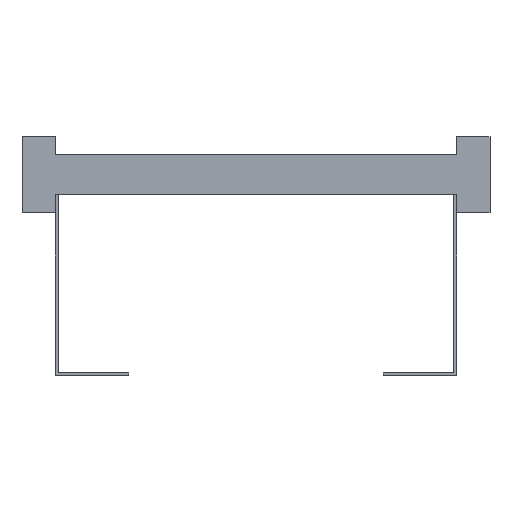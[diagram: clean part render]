
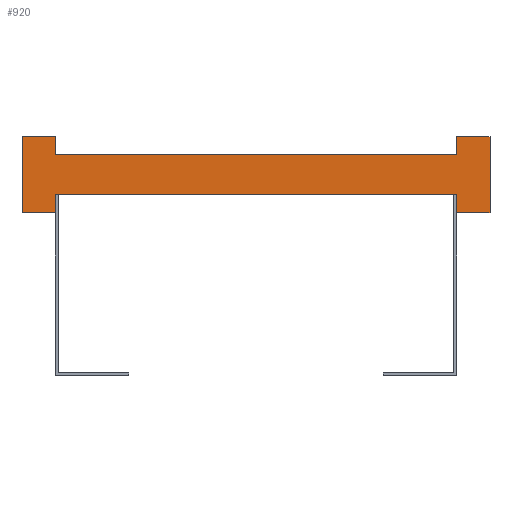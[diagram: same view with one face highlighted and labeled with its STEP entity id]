
A CAD part, front view. The second image highlights one B-rep face of the part: STEP entity #920.
In plain terms, the highlighted planar face has unit normal (0, -1, 0).
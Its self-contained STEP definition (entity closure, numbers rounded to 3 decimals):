
#1=DIRECTION('',(0.,0.,1.));
#2=VECTOR('',#1,13.5);
#3=CARTESIAN_POINT('',(150.,0.,-28.5));
#4=LINE('',#3,#2);
#5=DIRECTION('',(0.,0.,-1.));
#6=VECTOR('',#5,13.5);
#7=CARTESIAN_POINT('',(-150.,0.,-15.));
#8=LINE('',#7,#6);
#9=DIRECTION('',(-1.,0.,0.));
#10=VECTOR('',#9,25.);
#11=CARTESIAN_POINT('',(-150.,0.,-28.5));
#12=LINE('',#11,#10);
#13=DIRECTION('',(0.,0.,1.));
#14=VECTOR('',#13,57.);
#15=CARTESIAN_POINT('',(-175.,0.,-28.5));
#16=LINE('',#15,#14);
#17=DIRECTION('',(1.,0.,0.));
#18=VECTOR('',#17,25.);
#19=CARTESIAN_POINT('',(-175.,0.,28.5));
#20=LINE('',#19,#18);
#21=DIRECTION('',(0.,0.,-1.));
#22=VECTOR('',#21,13.5);
#23=CARTESIAN_POINT('',(-150.,0.,28.5));
#24=LINE('',#23,#22);
#25=DIRECTION('',(0.,0.,1.));
#26=VECTOR('',#25,13.5);
#27=CARTESIAN_POINT('',(150.,0.,15.));
#28=LINE('',#27,#26);
#29=DIRECTION('',(1.,0.,0.));
#30=VECTOR('',#29,25.);
#31=CARTESIAN_POINT('',(150.,0.,28.5));
#32=LINE('',#31,#30);
#33=DIRECTION('',(0.,0.,-1.));
#34=VECTOR('',#33,57.);
#35=CARTESIAN_POINT('',(175.,0.,28.5));
#36=LINE('',#35,#34);
#37=DIRECTION('',(-1.,0.,0.));
#38=VECTOR('',#37,25.);
#39=CARTESIAN_POINT('',(175.,0.,-28.5));
#40=LINE('',#39,#38);
#657=DIRECTION('',(1.,0.,0.));
#658=VECTOR('',#657,300.);
#659=CARTESIAN_POINT('',(-150.,0.,-15.));
#660=LINE('',#659,#658);
#669=DIRECTION('',(1.,0.,0.));
#670=VECTOR('',#669,300.);
#671=CARTESIAN_POINT('',(-150.,0.,15.));
#672=LINE('',#671,#670);
#673=CARTESIAN_POINT('',(-175.,0.,28.5));
#674=CARTESIAN_POINT('',(-150.,0.,28.5));
#675=VERTEX_POINT('',#673);
#676=VERTEX_POINT('',#674);
#677=CARTESIAN_POINT('',(-150.,0.,-28.5));
#678=CARTESIAN_POINT('',(-175.,0.,-28.5));
#679=VERTEX_POINT('',#677);
#680=VERTEX_POINT('',#678);
#681=CARTESIAN_POINT('',(175.,0.,28.5));
#682=CARTESIAN_POINT('',(175.,0.,-28.5));
#683=VERTEX_POINT('',#681);
#684=VERTEX_POINT('',#682);
#685=CARTESIAN_POINT('',(150.,0.,-28.5));
#686=VERTEX_POINT('',#685);
#687=CARTESIAN_POINT('',(150.,0.,28.5));
#688=VERTEX_POINT('',#687);
#705=CARTESIAN_POINT('',(-150.,0.,-15.));
#707=VERTEX_POINT('',#705);
#709=CARTESIAN_POINT('',(-150.,0.,15.));
#711=VERTEX_POINT('',#709);
#713=CARTESIAN_POINT('',(150.,0.,-15.));
#715=VERTEX_POINT('',#713);
#717=CARTESIAN_POINT('',(150.,0.,15.));
#719=VERTEX_POINT('',#717);
#889=CARTESIAN_POINT('',(0.,0.,0.));
#890=DIRECTION('',(0.,1.,0.));
#891=DIRECTION('',(1.,0.,0.));
#892=AXIS2_PLACEMENT_3D('',#889,#890,#891);
#893=PLANE('',#892);
#895=ORIENTED_EDGE('',*,*,#894,.T.);
#897=ORIENTED_EDGE('',*,*,#896,.F.);
#899=ORIENTED_EDGE('',*,*,#898,.T.);
#901=ORIENTED_EDGE('',*,*,#900,.T.);
#903=ORIENTED_EDGE('',*,*,#902,.T.);
#905=ORIENTED_EDGE('',*,*,#904,.T.);
#907=ORIENTED_EDGE('',*,*,#906,.T.);
#909=ORIENTED_EDGE('',*,*,#908,.T.);
#911=ORIENTED_EDGE('',*,*,#910,.T.);
#913=ORIENTED_EDGE('',*,*,#912,.T.);
#915=ORIENTED_EDGE('',*,*,#914,.T.);
#917=ORIENTED_EDGE('',*,*,#916,.T.);
#918=EDGE_LOOP('',(#895,#897,#899,#901,#903,#905,#907,#909,#911,#913,#915,
#917));
#919=FACE_OUTER_BOUND('',#918,.F.);
#920=ADVANCED_FACE('',(#919),#893,.F.);
#894=EDGE_CURVE('',#686,#715,#4,.T.);
#896=EDGE_CURVE('',#707,#715,#660,.T.);
#898=EDGE_CURVE('',#707,#679,#8,.T.);
#900=EDGE_CURVE('',#679,#680,#12,.T.);
#902=EDGE_CURVE('',#680,#675,#16,.T.);
#904=EDGE_CURVE('',#675,#676,#20,.T.);
#906=EDGE_CURVE('',#676,#711,#24,.T.);
#908=EDGE_CURVE('',#711,#719,#672,.T.);
#910=EDGE_CURVE('',#719,#688,#28,.T.);
#912=EDGE_CURVE('',#688,#683,#32,.T.);
#914=EDGE_CURVE('',#683,#684,#36,.T.);
#916=EDGE_CURVE('',#684,#686,#40,.T.);
